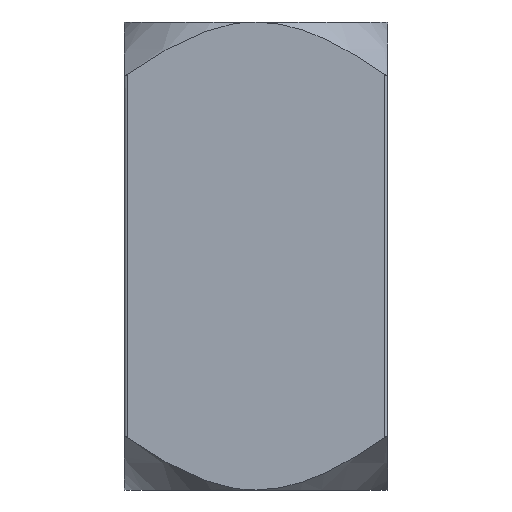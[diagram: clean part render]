
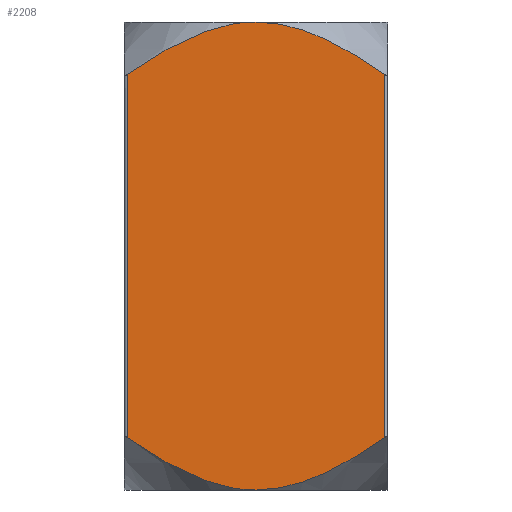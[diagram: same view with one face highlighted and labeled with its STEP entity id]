
A CAD part, front view. The second image highlights one B-rep face of the part: STEP entity #2208.
In plain terms, the highlighted planar face has unit normal (0, -1, 0).
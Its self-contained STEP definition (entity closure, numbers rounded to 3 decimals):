
#114 = VERTEX_POINT ( 'NONE', #810 ) ;
#459 = CARTESIAN_POINT ( 'NONE',  ( -22.5, -22.5, 40. ) ) ;
#461 = PLANE ( 'NONE',  #1497 ) ;
#464 = DIRECTION ( 'NONE',  ( 0., 1., 0. ) ) ;
#465 = DIRECTION ( 'NONE',  ( 0., 0., 1. ) ) ;
#732 = VERTEX_POINT ( 'NONE', #864 ) ;
#737 = VERTEX_POINT ( 'NONE', #871 ) ;
#740 = VERTEX_POINT ( 'NONE', #899 ) ;
#744 = VERTEX_POINT ( 'NONE', #768 ) ;
#761 = CARTESIAN_POINT ( 'NONE',  ( 0., -22.5, -40. ) ) ;
#768 = CARTESIAN_POINT ( 'NONE',  ( 22., -22.5, 31.032 ) ) ;
#810 = CARTESIAN_POINT ( 'NONE',  ( -22., -22.5, 31.032 ) ) ;
#864 = CARTESIAN_POINT ( 'NONE',  ( 0., -22.5, 40. ) ) ;
#871 = CARTESIAN_POINT ( 'NONE',  ( 0., -22.5, -40. ) ) ;
#899 = CARTESIAN_POINT ( 'NONE',  ( -22., -22.5, -31.032 ) ) ;
#1104 = FACE_OUTER_BOUND ( 'NONE', #1344, .T. ) ;
#1344 = EDGE_LOOP ( 'NONE', ( #2541, #2542, #2543, #2544, #2545, #2546 ) ) ;
#1373 = EDGE_CURVE ( 'NONE', #737, #3353, #3276, .T. ) ;
#1374 = EDGE_CURVE ( 'NONE', #3353, #744, #3583, .T. ) ;
#1375 = EDGE_CURVE ( 'NONE', #732, #744, #3278, .T. ) ;
#1376 = EDGE_CURVE ( 'NONE', #114, #732, #3274, .T. ) ;
#1377 = EDGE_CURVE ( 'NONE', #114, #740, #3587, .T. ) ;
#1378 = EDGE_CURVE ( 'NONE', #740, #737, #3271, .T. ) ;
#1388 = DIRECTION ( 'NONE',  ( 0., 0., -1. ) ) ;
#1390 = CARTESIAN_POINT ( 'NONE',  ( 0., -22.5, 40. ) ) ;
#1392 = CARTESIAN_POINT ( 'NONE',  ( -2.013, -22.5, 40. ) ) ;
#1397 = CARTESIAN_POINT ( 'NONE',  ( -6.454, -22.5, 39.097 ) ) ;
#1399 = CARTESIAN_POINT ( 'NONE',  ( -6.942, -22.5, 38.958 ) ) ;
#1400 = CARTESIAN_POINT ( 'NONE',  ( -7.905, -22.5, 38.656 ) ) ;
#1401 = CARTESIAN_POINT ( 'NONE',  ( -8.382, -22.5, 38.494 ) ) ;
#1403 = CARTESIAN_POINT ( 'NONE',  ( -3.999, -22.5, 39.726 ) ) ;
#1411 = CARTESIAN_POINT ( 'NONE',  ( -10.722, -22.5, 37.589 ) ) ;
#1412 = CARTESIAN_POINT ( 'NONE',  ( -13.455, -22.5, 36.334 ) ) ;
#1413 = CARTESIAN_POINT ( 'NONE',  ( -15.22, -22.5, 35.371 ) ) ;
#1416 = CARTESIAN_POINT ( 'NONE',  ( -18.679, -22.5, 33.29 ) ) ;
#1425 = CARTESIAN_POINT ( 'NONE',  ( -9.797, -22.5, 37.975 ) ) ;
#1426 = CARTESIAN_POINT ( 'NONE',  ( -22., -22.5, 40. ) ) ;
#1427 = CARTESIAN_POINT ( 'NONE',  ( 0., -22.5, -40. ) ) ;
#1428 = CARTESIAN_POINT ( 'NONE',  ( -2.013, -22.5, -40. ) ) ;
#1429 = CARTESIAN_POINT ( 'NONE',  ( -3.999, -22.5, -39.726 ) ) ;
#1430 = CARTESIAN_POINT ( 'NONE',  ( -6.454, -22.5, -39.097 ) ) ;
#1431 = CARTESIAN_POINT ( 'NONE',  ( -20.356, -22.5, -32.181 ) ) ;
#1432 = CARTESIAN_POINT ( 'NONE',  ( -6.942, -22.5, -38.958 ) ) ;
#1433 = CARTESIAN_POINT ( 'NONE',  ( -7.905, -22.5, -38.656 ) ) ;
#1434 = CARTESIAN_POINT ( 'NONE',  ( -8.382, -22.5, -38.494 ) ) ;
#1435 = CARTESIAN_POINT ( 'NONE',  ( -9.797, -22.5, -37.975 ) ) ;
#1436 = CARTESIAN_POINT ( 'NONE',  ( -10.722, -22.5, -37.589 ) ) ;
#1437 = CARTESIAN_POINT ( 'NONE',  ( -13.455, -22.5, -36.334 ) ) ;
#1438 = CARTESIAN_POINT ( 'NONE',  ( -15.22, -22.5, -35.371 ) ) ;
#1439 = CARTESIAN_POINT ( 'NONE',  ( -18.679, -22.5, -33.29 ) ) ;
#1497 = AXIS2_PLACEMENT_3D ( 'NONE', #459, #464, #465 ) ;
#1933 = CARTESIAN_POINT ( 'NONE',  ( 22., -22.5, -31.032 ) ) ;
#2208 = ADVANCED_FACE ( 'NONE', ( #1104 ), #461, .F. ) ;
#2382 = CARTESIAN_POINT ( 'NONE',  ( 18.694, -22.5, 33.279 ) ) ;
#2383 = CARTESIAN_POINT ( 'NONE',  ( 15.272, -22.5, 35.341 ) ) ;
#2384 = CARTESIAN_POINT ( 'NONE',  ( 13.518, -22.5, 36.302 ) ) ;
#2385 = CARTESIAN_POINT ( 'NONE',  ( 11.232, -22.5, 37.356 ) ) ;
#2386 = CARTESIAN_POINT ( 'NONE',  ( 10.77, -22.5, 37.559 ) ) ;
#2387 = CARTESIAN_POINT ( 'NONE',  ( 22., -22.5, 31.032 ) ) ;
#2388 = CARTESIAN_POINT ( 'NONE',  ( 9.835, -22.5, 37.948 ) ) ;
#2389 = CARTESIAN_POINT ( 'NONE',  ( 20.361, -22.5, 32.178 ) ) ;
#2390 = CARTESIAN_POINT ( 'NONE',  ( 9.362, -22.5, 38.134 ) ) ;
#2391 = CARTESIAN_POINT ( 'NONE',  ( 7.935, -22.5, 38.658 ) ) ;
#2392 = CARTESIAN_POINT ( 'NONE',  ( 6.974, -22.5, 38.963 ) ) ;
#2393 = CARTESIAN_POINT ( 'NONE',  ( 5.024, -22.5, 39.465 ) ) ;
#2394 = CARTESIAN_POINT ( 'NONE',  ( 4.036, -22.5, 39.662 ) ) ;
#2395 = CARTESIAN_POINT ( 'NONE',  ( 2.532, -22.5, 39.863 ) ) ;
#2396 = CARTESIAN_POINT ( 'NONE',  ( 2.025, -22.5, 39.915 ) ) ;
#2397 = CARTESIAN_POINT ( 'NONE',  ( 1.01, -22.5, 39.983 ) ) ;
#2398 = CARTESIAN_POINT ( 'NONE',  ( -20.356, -22.5, 32.181 ) ) ;
#2399 = CARTESIAN_POINT ( 'NONE',  ( -22., -22.5, -31.032 ) ) ;
#2400 = CARTESIAN_POINT ( 'NONE',  ( -22., -22.5, 31.032 ) ) ;
#2401 = CARTESIAN_POINT ( 'NONE',  ( 0., -22.5, 40. ) ) ;
#2402 = CARTESIAN_POINT ( 'NONE',  ( 22., -22.5, -31.032 ) ) ;
#2403 = CARTESIAN_POINT ( 'NONE',  ( 20.361, -22.5, -32.178 ) ) ;
#2404 = CARTESIAN_POINT ( 'NONE',  ( 18.694, -22.5, -33.279 ) ) ;
#2405 = CARTESIAN_POINT ( 'NONE',  ( 15.272, -22.5, -35.341 ) ) ;
#2406 = CARTESIAN_POINT ( 'NONE',  ( 13.518, -22.5, -36.302 ) ) ;
#2407 = CARTESIAN_POINT ( 'NONE',  ( 11.232, -22.5, -37.356 ) ) ;
#2408 = CARTESIAN_POINT ( 'NONE',  ( 10.77, -22.5, -37.559 ) ) ;
#2409 = CARTESIAN_POINT ( 'NONE',  ( 9.835, -22.5, -37.948 ) ) ;
#2410 = CARTESIAN_POINT ( 'NONE',  ( 9.362, -22.5, -38.134 ) ) ;
#2411 = CARTESIAN_POINT ( 'NONE',  ( 7.935, -22.5, -38.658 ) ) ;
#2412 = CARTESIAN_POINT ( 'NONE',  ( 6.974, -22.5, -38.963 ) ) ;
#2413 = CARTESIAN_POINT ( 'NONE',  ( 5.024, -22.5, -39.465 ) ) ;
#2414 = CARTESIAN_POINT ( 'NONE',  ( 4.036, -22.5, -39.662 ) ) ;
#2415 = CARTESIAN_POINT ( 'NONE',  ( 2.532, -22.5, -39.863 ) ) ;
#2416 = CARTESIAN_POINT ( 'NONE',  ( 2.025, -22.5, -39.915 ) ) ;
#2417 = CARTESIAN_POINT ( 'NONE',  ( 1.01, -22.5, -39.983 ) ) ;
#2418 = CARTESIAN_POINT ( 'NONE',  ( 22., -22.5, 40. ) ) ;
#2419 = DIRECTION ( 'NONE',  ( 0., 0., 1. ) ) ;
#2436 = CARTESIAN_POINT ( 'NONE',  ( 0.504, -22.5, 40. ) ) ;
#2437 = CARTESIAN_POINT ( 'NONE',  ( 0.504, -22.5, -40. ) ) ;
#2541 = ORIENTED_EDGE ( 'NONE', *, *, #1373, .T. ) ;
#2542 = ORIENTED_EDGE ( 'NONE', *, *, #1374, .T. ) ;
#2543 = ORIENTED_EDGE ( 'NONE', *, *, #1375, .F. ) ;
#2544 = ORIENTED_EDGE ( 'NONE', *, *, #1376, .F. ) ;
#2545 = ORIENTED_EDGE ( 'NONE', *, *, #1377, .T. ) ;
#2546 = ORIENTED_EDGE ( 'NONE', *, *, #1378, .T. ) ;
#3271 = B_SPLINE_CURVE_WITH_KNOTS ( 'NONE', 3,
 ( #2399, #1431, #1439, #1438, #1437, #1436, #1435, #1434, #1433, #1432, #1430, #1429, #1428, #1427 ),
 .UNSPECIFIED., .F., .F.,
 ( 4, 2, 2, 2, 2, 2, 4 ),
 ( 0.027, 0.033, 0.039, 0.042, 0.044, 0.045, 0.051 ),
 .UNSPECIFIED. ) ;
#3274 = B_SPLINE_CURVE_WITH_KNOTS ( 'NONE', 3,
 ( #2400, #2398, #1416, #1413, #1412, #1411, #1425, #1401, #1400, #1399, #1397, #1403, #1392, #1390 ),
 .UNSPECIFIED., .F., .F.,
 ( 4, 2, 2, 2, 2, 2, 4 ),
 ( 0.027, 0.033, 0.039, 0.042, 0.044, 0.045, 0.051 ),
 .UNSPECIFIED. ) ;
#3276 = B_SPLINE_CURVE_WITH_KNOTS ( 'NONE', 3,
 ( #761, #2437, #2417, #2416, #2415, #2414, #2413, #2412, #2411, #2410, #2409, #2408, #2407, #2406, #2405, #2404, #2403, #2402 ),
 .UNSPECIFIED., .F., .F.,
 ( 4, 2, 2, 2, 2, 2, 2, 2, 4 ),
 ( 0.051, 0.053, 0.054, 0.057, 0.06, 0.062, 0.063, 0.069, 0.075 ),
 .UNSPECIFIED. ) ;
#3278 = B_SPLINE_CURVE_WITH_KNOTS ( 'NONE', 3,
 ( #2401, #2436, #2397, #2396, #2395, #2394, #2393, #2392, #2391, #2390, #2388, #2386, #2385, #2384, #2383, #2382, #2389, #2387 ),
 .UNSPECIFIED., .F., .F.,
 ( 4, 2, 2, 2, 2, 2, 2, 2, 4 ),
 ( 0.051, 0.053, 0.054, 0.057, 0.06, 0.062, 0.063, 0.069, 0.075 ),
 .UNSPECIFIED. ) ;
#3353 = VERTEX_POINT ( 'NONE', #1933 ) ;
#3583 = LINE ( 'NONE', #2418, #3585 ) ;
#3585 = VECTOR ( 'NONE', #2419, 1000. ) ;
#3587 = LINE ( 'NONE', #1426, #3588 ) ;
#3588 = VECTOR ( 'NONE', #1388, 1000. ) ;
